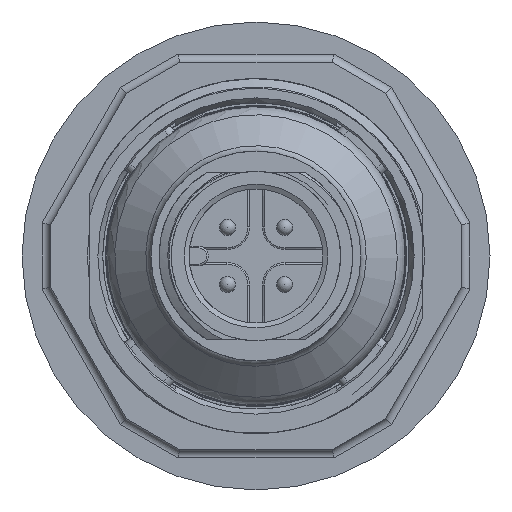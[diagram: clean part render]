
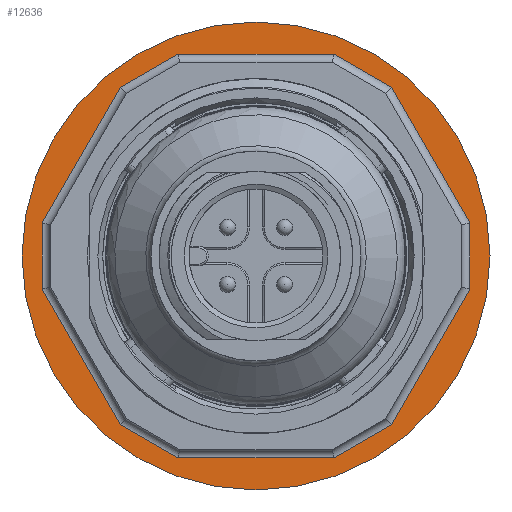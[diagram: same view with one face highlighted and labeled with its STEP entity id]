
A CAD part, front view. The second image highlights one B-rep face of the part: STEP entity #12636.
In plain terms, the highlighted planar face has unit normal (0, -1, 0).
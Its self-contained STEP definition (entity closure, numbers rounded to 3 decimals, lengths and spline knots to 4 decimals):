
#956=FACE_BOUND('',#2114,.T.);
#1074=PLANE('',#13531);
#1395=FACE_OUTER_BOUND('',#2113,.T.);
#2113=EDGE_LOOP('',(#8572));
#2114=EDGE_LOOP('',(#8573,#8574,#8575,#8576,#8577,#8578,#8579,#8580,#8581,
#8582,#8583,#8584));
#2892=LINE('',#17919,#3625);
#2894=LINE('',#17927,#3627);
#2896=LINE('',#17933,#3629);
#2898=LINE('',#17939,#3631);
#2900=LINE('',#17945,#3633);
#2902=LINE('',#17951,#3635);
#2904=LINE('',#17957,#3637);
#2906=LINE('',#17963,#3639);
#2908=LINE('',#17969,#3641);
#2910=LINE('',#17975,#3643);
#2912=LINE('',#17981,#3645);
#2914=LINE('',#17986,#3647);
#3625=VECTOR('',#15095,1.);
#3627=VECTOR('',#15103,1.);
#3629=VECTOR('',#15109,1.);
#3631=VECTOR('',#15115,1.);
#3633=VECTOR('',#15121,1.);
#3635=VECTOR('',#15127,1.);
#3637=VECTOR('',#15133,1.);
#3639=VECTOR('',#15139,1.);
#3641=VECTOR('',#15145,1.);
#3643=VECTOR('',#15151,1.);
#3645=VECTOR('',#15157,1.);
#3647=VECTOR('',#15163,1.);
#4300=CIRCLE('',#13532,1.45);
#4875=VERTEX_POINT('',#17917);
#4876=VERTEX_POINT('',#17918);
#4879=VERTEX_POINT('',#17926);
#4881=VERTEX_POINT('',#17932);
#4883=VERTEX_POINT('',#17938);
#4885=VERTEX_POINT('',#17944);
#4887=VERTEX_POINT('',#17950);
#4889=VERTEX_POINT('',#17956);
#4891=VERTEX_POINT('',#17962);
#4893=VERTEX_POINT('',#17968);
#4895=VERTEX_POINT('',#17974);
#4897=VERTEX_POINT('',#17980);
#4906=VERTEX_POINT('',#18015);
#6239=EDGE_CURVE('',#4875,#4876,#2892,.T.);
#6243=EDGE_CURVE('',#4876,#4879,#2894,.T.);
#6246=EDGE_CURVE('',#4879,#4881,#2896,.T.);
#6249=EDGE_CURVE('',#4881,#4883,#2898,.T.);
#6252=EDGE_CURVE('',#4883,#4885,#2900,.T.);
#6255=EDGE_CURVE('',#4885,#4887,#2902,.T.);
#6258=EDGE_CURVE('',#4887,#4889,#2904,.T.);
#6261=EDGE_CURVE('',#4889,#4891,#2906,.T.);
#6264=EDGE_CURVE('',#4891,#4893,#2908,.T.);
#6267=EDGE_CURVE('',#4893,#4895,#2910,.T.);
#6270=EDGE_CURVE('',#4895,#4897,#2912,.T.);
#6273=EDGE_CURVE('',#4897,#4875,#2914,.T.);
#6288=EDGE_CURVE('',#4906,#4906,#4300,.T.);
#8572=ORIENTED_EDGE('',*,*,#6288,.F.);
#8573=ORIENTED_EDGE('',*,*,#6239,.F.);
#8574=ORIENTED_EDGE('',*,*,#6273,.F.);
#8575=ORIENTED_EDGE('',*,*,#6270,.F.);
#8576=ORIENTED_EDGE('',*,*,#6267,.F.);
#8577=ORIENTED_EDGE('',*,*,#6264,.F.);
#8578=ORIENTED_EDGE('',*,*,#6261,.F.);
#8579=ORIENTED_EDGE('',*,*,#6258,.F.);
#8580=ORIENTED_EDGE('',*,*,#6255,.F.);
#8581=ORIENTED_EDGE('',*,*,#6252,.F.);
#8582=ORIENTED_EDGE('',*,*,#6249,.F.);
#8583=ORIENTED_EDGE('',*,*,#6246,.F.);
#8584=ORIENTED_EDGE('',*,*,#6243,.F.);
#12636=ADVANCED_FACE('',(#1395,#956),#1074,.F.);
#13531=AXIS2_PLACEMENT_3D('',#18014,#15190,#15191);
#13532=AXIS2_PLACEMENT_3D('',#18016,#15192,#15193);
#15095=DIRECTION('',(0.,0.,-1.));
#15103=DIRECTION('',(0.5,0.,-0.866));
#15109=DIRECTION('',(0.866,0.,-0.5));
#15115=DIRECTION('',(1.,0.,0.));
#15121=DIRECTION('',(0.866,0.,0.5));
#15127=DIRECTION('',(0.5,0.,0.866));
#15133=DIRECTION('',(0.,0.,1.));
#15139=DIRECTION('',(-0.5,0.,0.866));
#15145=DIRECTION('',(-0.866,0.,0.5));
#15151=DIRECTION('',(-1.,0.,0.));
#15157=DIRECTION('',(-0.866,0.,-0.5));
#15163=DIRECTION('',(-0.5,0.,-0.866));
#15190=DIRECTION('center_axis',(0.,1.,0.));
#15191=DIRECTION('ref_axis',(0.5,0.,0.866));
#15192=DIRECTION('center_axis',(0.,1.,0.));
#15193=DIRECTION('ref_axis',(-0.866,0.,0.5));
#17917=CARTESIAN_POINT('',(-1.325,1.025,0.205));
#17918=CARTESIAN_POINT('',(-1.325,1.025,-0.205));
#17919=CARTESIAN_POINT('',(-1.325,1.025,-0.0958));
#17926=CARTESIAN_POINT('',(-0.8401,1.025,-1.045));
#17927=CARTESIAN_POINT('',(-0.9646,1.025,-0.8292));
#17932=CARTESIAN_POINT('',(-0.4849,1.025,-1.25));
#17933=CARTESIAN_POINT('',(-0.5795,1.025,-1.1954));
#17938=CARTESIAN_POINT('',(0.4849,1.025,-1.25));
#17939=CARTESIAN_POINT('',(0.2358,1.025,-1.25));
#17944=CARTESIAN_POINT('',(0.8401,1.025,-1.045));
#17945=CARTESIAN_POINT('',(0.7455,1.025,-1.0996));
#17950=CARTESIAN_POINT('',(1.325,1.025,-0.205));
#17951=CARTESIAN_POINT('',(1.2004,1.025,-0.4208));
#17956=CARTESIAN_POINT('',(1.325,1.025,0.205));
#17957=CARTESIAN_POINT('',(1.325,1.025,0.0958));
#17962=CARTESIAN_POINT('',(0.8401,1.025,1.045));
#17963=CARTESIAN_POINT('',(0.9646,1.025,0.8292));
#17968=CARTESIAN_POINT('',(0.4849,1.025,1.25));
#17969=CARTESIAN_POINT('',(0.5795,1.025,1.1954));
#17974=CARTESIAN_POINT('',(-0.4849,1.025,1.25));
#17975=CARTESIAN_POINT('',(-0.2358,1.025,1.25));
#17980=CARTESIAN_POINT('',(-0.8401,1.025,1.045));
#17981=CARTESIAN_POINT('',(-0.7455,1.025,1.0996));
#17986=CARTESIAN_POINT('',(-1.2004,1.025,0.4208));
#18014=CARTESIAN_POINT('Origin',(0.,1.025,0.));
#18015=CARTESIAN_POINT('',(-1.2557,1.025,0.725));
#18016=CARTESIAN_POINT('Origin',(0.,1.025,0.));
